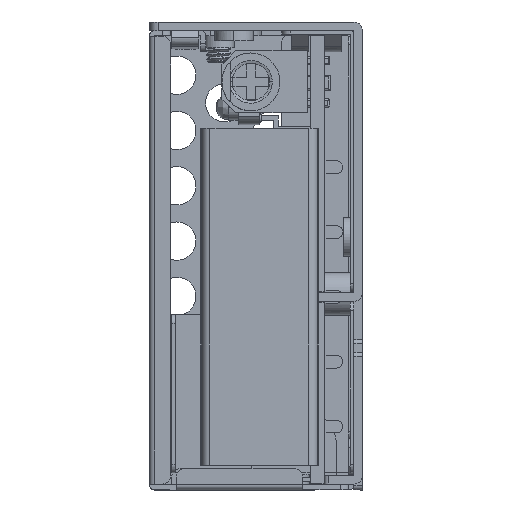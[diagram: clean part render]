
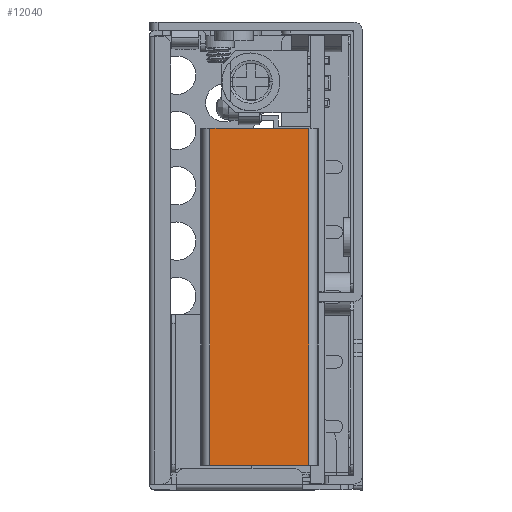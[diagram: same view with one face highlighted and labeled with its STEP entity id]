
A CAD part, left-side view. The second image highlights one B-rep face of the part: STEP entity #12040.
In plain terms, the highlighted planar face has unit normal (-1, 0, 0).
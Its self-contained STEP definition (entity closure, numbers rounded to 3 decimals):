
#641 = EDGE_CURVE ( 'NONE', #41293, #60882, #55094, .T. ) ;
#1215 = FACE_OUTER_BOUND ( 'NONE', #64425, .T. ) ;
#1759 = VECTOR ( 'NONE', #83349, 1000. ) ;
#10740 = CARTESIAN_POINT ( 'NONE',  ( -44.437, 18.145, -25.395 ) ) ;
#12040 = ADVANCED_FACE ( 'NONE', ( #1215 ), #75707, .T. ) ;
#14631 = CARTESIAN_POINT ( 'NONE',  ( -44.437, 6.288, -24.603 ) ) ;
#19521 = VECTOR ( 'NONE', #79611, 1000. ) ;
#24294 = DIRECTION ( 'NONE',  ( 0., -1., 0. ) ) ;
#30266 = VECTOR ( 'NONE', #24294, 1000. ) ;
#33668 = DIRECTION ( 'NONE',  ( -1., 0., 0. ) ) ;
#35075 = ORIENTED_EDGE ( 'NONE', *, *, #44685, .F. ) ;
#36303 = EDGE_CURVE ( 'NONE', #38083, #74207, #99963, .T. ) ;
#38083 = VERTEX_POINT ( 'NONE', #14631 ) ;
#39716 = CARTESIAN_POINT ( 'NONE',  ( -44.437, 12.1, -24.603 ) ) ;
#41293 = VERTEX_POINT ( 'NONE', #44149 ) ;
#41791 = CARTESIAN_POINT ( 'NONE',  ( -44.437, 12.1, 14.997 ) ) ;
#44149 = CARTESIAN_POINT ( 'NONE',  ( -44.437, 17.912, 14.997 ) ) ;
#44685 = EDGE_CURVE ( 'NONE', #41293, #74207, #66836, .T. ) ;
#55094 = LINE ( 'NONE', #87580, #19521 ) ;
#60180 = CARTESIAN_POINT ( 'NONE',  ( -44.437, 6.288, 14.997 ) ) ;
#60882 = VERTEX_POINT ( 'NONE', #92425 ) ;
#64425 = EDGE_LOOP ( 'NONE', ( #71363, #97019, #35075, #90957 ) ) ;
#66473 = CARTESIAN_POINT ( 'NONE',  ( -44.437, 6.288, -4.803 ) ) ;
#66836 = LINE ( 'NONE', #41791, #1759 ) ;
#71363 = ORIENTED_EDGE ( 'NONE', *, *, #83868, .T. ) ;
#72765 = LINE ( 'NONE', #39716, #30266 ) ;
#74207 = VERTEX_POINT ( 'NONE', #60180 ) ;
#74670 = DIRECTION ( 'NONE',  ( 0., -1., 0. ) ) ;
#75707 = PLANE ( 'NONE',  #94777 ) ;
#76574 = DIRECTION ( 'NONE',  ( 0., 0., 1. ) ) ;
#79611 = DIRECTION ( 'NONE',  ( 0., 0., -1. ) ) ;
#83349 = DIRECTION ( 'NONE',  ( 0., -1., 0. ) ) ;
#83868 = EDGE_CURVE ( 'NONE', #60882, #38083, #72765, .T. ) ;
#87580 = CARTESIAN_POINT ( 'NONE',  ( -44.437, 17.912, -4.803 ) ) ;
#90957 = ORIENTED_EDGE ( 'NONE', *, *, #641, .T. ) ;
#92425 = CARTESIAN_POINT ( 'NONE',  ( -44.437, 17.912, -24.603 ) ) ;
#94777 = AXIS2_PLACEMENT_3D ( 'NONE', #10740, #33668, #74670 ) ;
#97019 = ORIENTED_EDGE ( 'NONE', *, *, #36303, .T. ) ;
#98090 = VECTOR ( 'NONE', #76574, 1000. ) ;
#99963 = LINE ( 'NONE', #66473, #98090 ) ;
